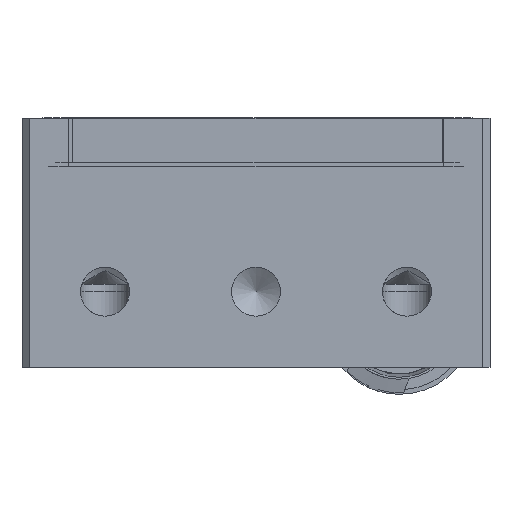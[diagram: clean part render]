
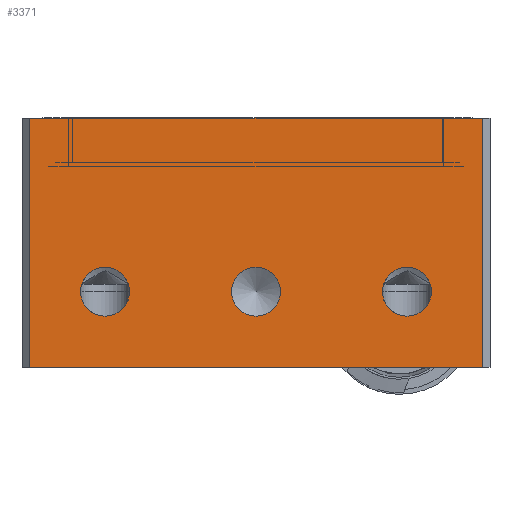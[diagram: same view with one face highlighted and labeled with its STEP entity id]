
A CAD part, front view. The second image highlights one B-rep face of the part: STEP entity #3371.
In plain terms, the highlighted planar face has unit normal (0, -1, 0).
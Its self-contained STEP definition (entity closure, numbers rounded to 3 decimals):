
#313=CIRCLE('',#5085,1.621);
#314=CIRCLE('',#5088,1.621);
#315=CIRCLE('',#5091,1.621);
#870=ORIENTED_EDGE('',*,*,#1562,.T.);
#871=ORIENTED_EDGE('',*,*,#1560,.T.);
#872=ORIENTED_EDGE('',*,*,#1558,.T.);
#873=ORIENTED_EDGE('',*,*,#1585,.F.);
#874=ORIENTED_EDGE('',*,*,#1584,.T.);
#875=ORIENTED_EDGE('',*,*,#1586,.T.);
#876=ORIENTED_EDGE('',*,*,#1574,.T.);
#1558=EDGE_CURVE('',#1969,#1969,#313,.T.);
#1560=EDGE_CURVE('',#1970,#1970,#314,.T.);
#1562=EDGE_CURVE('',#1971,#1971,#315,.T.);
#1574=EDGE_CURVE('',#1983,#1981,#2210,.T.);
#1584=EDGE_CURVE('',#1990,#1992,#2220,.T.);
#1585=EDGE_CURVE('',#1990,#1981,#2221,.T.);
#1586=EDGE_CURVE('',#1992,#1983,#2222,.T.);
#1969=VERTEX_POINT('',#7489);
#1970=VERTEX_POINT('',#7493);
#1971=VERTEX_POINT('',#7497);
#1981=VERTEX_POINT('',#7528);
#1983=VERTEX_POINT('',#7531);
#1990=VERTEX_POINT('',#7547);
#1992=VERTEX_POINT('',#7551);
#2210=LINE('',#7530,#2434);
#2220=LINE('',#7552,#2444);
#2221=LINE('',#7554,#2445);
#2222=LINE('',#7555,#2446);
#2434=VECTOR('',#5856,1000.);
#2444=VECTOR('',#5870,1000.);
#2445=VECTOR('',#5873,1000.);
#2446=VECTOR('',#5874,1000.);
#2759=EDGE_LOOP('',(#870));
#2760=EDGE_LOOP('',(#871));
#2761=EDGE_LOOP('',(#872));
#2762=EDGE_LOOP('',(#873,#874,#875,#876));
#3048=FACE_BOUND('',#2759,.T.);
#3049=FACE_BOUND('',#2760,.T.);
#3050=FACE_BOUND('',#2761,.T.);
#3051=FACE_BOUND('',#2762,.T.);
#3197=PLANE('',#5114);
#3371=ADVANCED_FACE('',(#3048,#3049,#3050,#3051),#3197,.F.);
#5085=AXIS2_PLACEMENT_3D('',#7488,#5801,#5802);
#5088=AXIS2_PLACEMENT_3D('',#7492,#5807,#5808);
#5091=AXIS2_PLACEMENT_3D('',#7496,#5813,#5814);
#5114=AXIS2_PLACEMENT_3D('',#7553,#5871,#5872);
#5801=DIRECTION('',(0.,1.,0.));
#5802=DIRECTION('',(0.,0.,-1.));
#5807=DIRECTION('',(0.,1.,0.));
#5808=DIRECTION('',(0.,0.,-1.));
#5813=DIRECTION('',(0.,1.,0.));
#5814=DIRECTION('',(0.,0.,-1.));
#5856=DIRECTION('',(0.,0.,-1.));
#5870=DIRECTION('',(0.,0.,1.));
#5871=DIRECTION('',(0.,1.,0.));
#5872=DIRECTION('',(0.,0.,1.));
#5873=DIRECTION('',(-1.,0.,0.));
#5874=DIRECTION('',(-1.,0.,0.));
#7488=CARTESIAN_POINT('',(0.,-153.5,-11.5));
#7489=CARTESIAN_POINT('',(0.,-153.5,-13.121));
#7492=CARTESIAN_POINT('',(10.,-153.5,-11.5));
#7493=CARTESIAN_POINT('',(10.,-153.5,-13.121));
#7496=CARTESIAN_POINT('',(-10.,-153.5,-11.5));
#7497=CARTESIAN_POINT('',(-10.,-153.5,-13.121));
#7528=CARTESIAN_POINT('',(-15.,-153.5,-16.5));
#7530=CARTESIAN_POINT('',(-15.,-153.5,-16.5));
#7531=CARTESIAN_POINT('',(-15.,-153.5,0.));
#7547=CARTESIAN_POINT('',(15.,-153.5,-16.5));
#7551=CARTESIAN_POINT('',(15.,-153.5,0.));
#7552=CARTESIAN_POINT('',(15.,-153.5,-16.5));
#7553=CARTESIAN_POINT('',(15.5,-153.5,-16.5));
#7554=CARTESIAN_POINT('',(15.5,-153.5,-16.5));
#7555=CARTESIAN_POINT('',(15.5,-153.5,0.));
